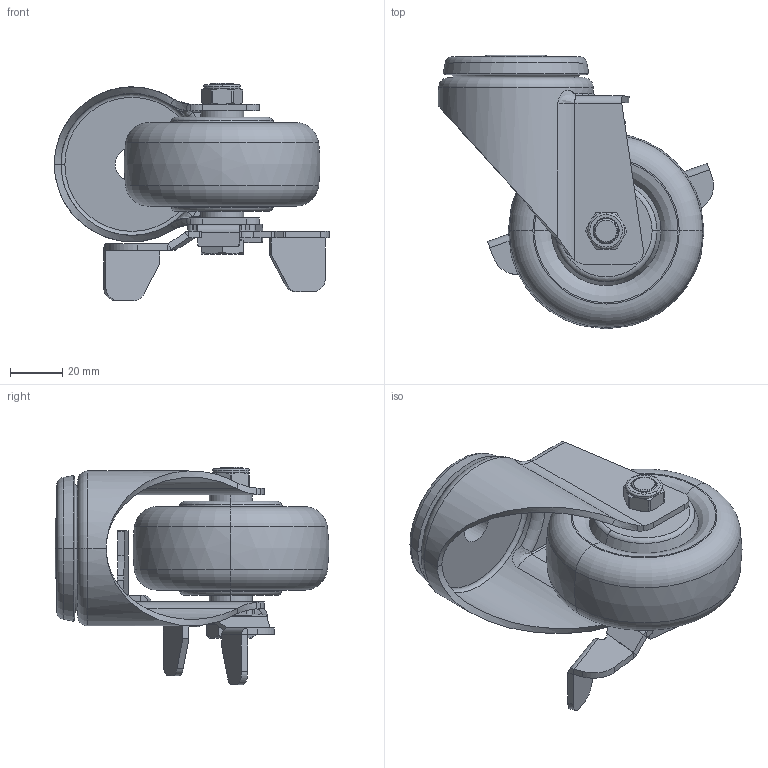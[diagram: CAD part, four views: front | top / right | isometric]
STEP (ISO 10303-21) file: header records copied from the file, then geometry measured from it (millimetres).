
FILE_DESCRIPTION((''),'2;1');
FILE_NAME('50113-503-86_ASM','2020-01-05T',('L'),(''),'PRO/ENGINEER BY PARAMETRIC TECHNOLOGY CORPORATION, 2010280','PRO/ENGINEER BY PARAMETRIC TECHNOLOGY CORPORATION, 2010280','');
FILE_SCHEMA(('CONFIG_CONTROL_DESIGN'));
Length unit declared in the file: millimetre
Products named in the file (7): 50183C; 503-986; 502-33; 570-34; 503-15; 500-14; 50113-503-86_ASM
Assembly tree (6 placements, depth 2):
  50113-503-86_ASM
    50183C
    503-986
    502-33
    570-34
    503-15
    500-14
Bounding box: 105.25 x 104.64 x 83.14 mm (x, y, z)
Volume: 190280.1 mm3; surface area: 53610.7 mm2
Topology: 6 solids, 6 shells, 403 faces, 960 edges, 582 vertices
Faces by surface type: cylinder 146, plane 136, bspline 50, cone 37, torus 34
Entity records: 20170 total; most frequent: CARTESIAN_POINT 11068, ORIENTED_EDGE 1920, DIRECTION 1769, EDGE_CURVE 960, AXIS2_PLACEMENT_3D 666, VERTEX_POINT 582, VECTOR 437, LINE 437
